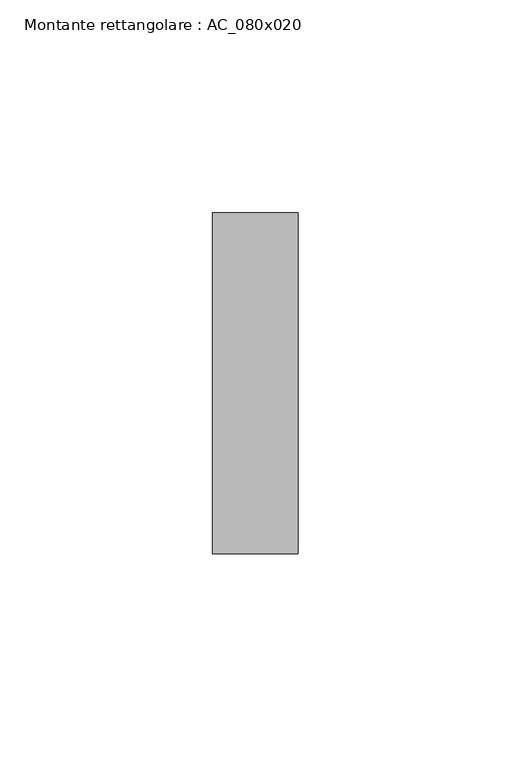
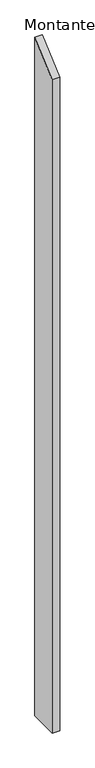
"""IFC4 building model written with IfcOpenShell, lengths in millimetres: member geometry, Montante rettangolare : AC_080x020."""

from ifc_helpers import new_model, si_unit, frame, origin, place, context, project, spatial, polyline, outline, extrude, source, transform, mapped, element, save


def montante_rettangolare_ac_080x020_15081c37(model_context):
    return source(origin(), model_context, "Body", "SweptSolid", [
        extrude(outline(polyline([(-40.0, -35.3890106), (40.0, 35.3890106), (40.0, -1870.0), (-40.0, -1870.0), (-40.0, -35.3890106)])), frame((-20.0, 0.0, 0.0), z_axis=(1.0, 0.0, 0.0), x_axis=(0.0, 1.0, 0.0)), (0.0, 0.0, 1.0), 20.0),
    ])


if __name__ == "__main__":
    model = new_model("IFC4")
    model_context = context("Model", 3, world=origin())
    ifc_project = project(units=[si_unit("LENGTHUNIT", "METRE", prefix="MILLI")], contexts=[model_context])
    site = spatial("IfcSite", under=ifc_project)
    building = spatial("IfcBuilding", under=site)
    placement = place(None, origin())
    montante_rettangolare_ac_080x020_shape = montante_rettangolare_ac_080x020_15081c37(model_context)
    element("IfcMember", 1, ObjectType="Montante rettangolare : AC_080x020", at=placement, inside=building, context=model_context, shape_type="MappedRepresentation", body=[
        mapped(montante_rettangolare_ac_080x020_shape, transform((0.0, 0.0, 0.0), x_axis=(1.0, 0.0, 0.0), y_axis=(0.0, 1.0, 0.0), z_axis=(0.0, 0.0, 1.0))),
    ])
    save(model, "model.ifc")
